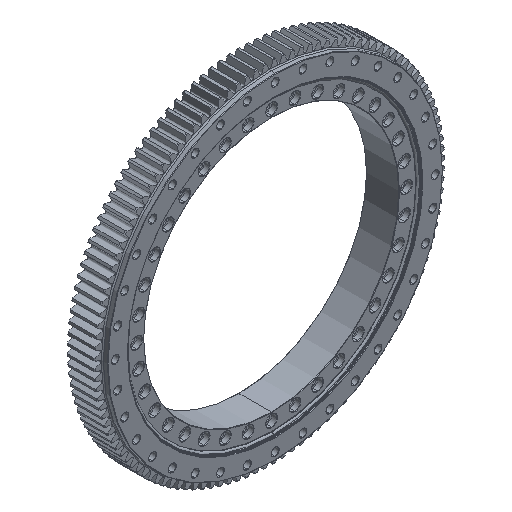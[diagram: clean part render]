
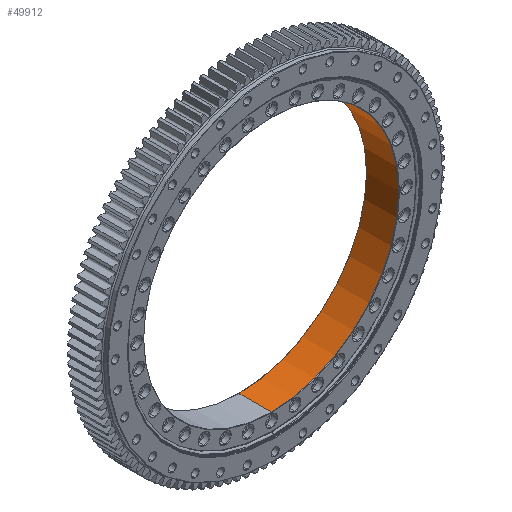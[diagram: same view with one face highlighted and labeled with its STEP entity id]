
A CAD part, isometric view. The second image highlights one B-rep face of the part: STEP entity #49912.
In plain terms, the highlighted cylindrical face has radius 356 mm (diameter 712 mm), a partial arc.
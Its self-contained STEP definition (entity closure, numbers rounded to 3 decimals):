
#1713 = ORIENTED_EDGE ( 'NONE', *, *, #24954, .F. ) ;
#3034 = AXIS2_PLACEMENT_3D ( 'NONE', #44207, #50062, #10198 ) ;
#4033 = AXIS2_PLACEMENT_3D ( 'NONE', #44699, #32661, #16551 ) ;
#5241 = CARTESIAN_POINT ( 'NONE',  ( 0., 0., -356. ) ) ;
#5570 = DIRECTION ( 'NONE',  ( 0., 0., -1. ) ) ;
#8978 = VERTEX_POINT ( 'NONE', #38751 ) ;
#10198 = DIRECTION ( 'NONE',  ( 0., 0., -1. ) ) ;
#10968 = EDGE_CURVE ( 'NONE', #69689, #71865, #65620, .T. ) ;
#11074 = FACE_OUTER_BOUND ( 'NONE', #13433, .T. ) ;
#11193 = ORIENTED_EDGE ( 'NONE', *, *, #45662, .F. ) ;
#13433 = EDGE_LOOP ( 'NONE', ( #11193, #1713, #60535, #38948 ) ) ;
#16083 = CARTESIAN_POINT ( 'NONE',  ( 0., 101., -356. ) ) ;
#16551 = DIRECTION ( 'NONE',  ( 0., 0., -1. ) ) ;
#21000 = DIRECTION ( 'NONE',  ( 0., -1., 0. ) ) ;
#23486 = CARTESIAN_POINT ( 'NONE',  ( 0., 11., 356. ) ) ;
#24954 = EDGE_CURVE ( 'NONE', #69689, #8978, #65934, .T. ) ;
#25748 = VECTOR ( 'NONE', #28880, 1000. ) ;
#28880 = DIRECTION ( 'NONE',  ( 0., -1., 0. ) ) ;
#32379 = VECTOR ( 'NONE', #21000, 1000. ) ;
#32661 = DIRECTION ( 'NONE',  ( 0., -1., 0. ) ) ;
#32677 = CYLINDRICAL_SURFACE ( 'NONE', #33001, 356. ) ;
#33001 = AXIS2_PLACEMENT_3D ( 'NONE', #44716, #38170, #5570 ) ;
#38170 = DIRECTION ( 'NONE',  ( 0., -1., 0. ) ) ;
#38751 = CARTESIAN_POINT ( 'NONE',  ( 0., 101., 356. ) ) ;
#38782 = LINE ( 'NONE', #57046, #25748 ) ;
#38948 = ORIENTED_EDGE ( 'NONE', *, *, #63176, .T. ) ;
#44207 = CARTESIAN_POINT ( 'NONE',  ( 0., 11., 0. ) ) ;
#44699 = CARTESIAN_POINT ( 'NONE',  ( 0., 101., 0. ) ) ;
#44716 = CARTESIAN_POINT ( 'NONE',  ( 0., 0., 0. ) ) ;
#45662 = EDGE_CURVE ( 'NONE', #8978, #50163, #38782, .T. ) ;
#49912 = ADVANCED_FACE ( 'NONE', ( #11074 ), #32677, .F. ) ;
#50062 = DIRECTION ( 'NONE',  ( 0., -1., 0. ) ) ;
#50163 = VERTEX_POINT ( 'NONE', #23486 ) ;
#57046 = CARTESIAN_POINT ( 'NONE',  ( 0., 0., 356. ) ) ;
#59154 = CIRCLE ( 'NONE', #3034, 356. ) ;
#60535 = ORIENTED_EDGE ( 'NONE', *, *, #10968, .T. ) ;
#63176 = EDGE_CURVE ( 'NONE', #71865, #50163, #59154, .T. ) ;
#65620 = LINE ( 'NONE', #5241, #32379 ) ;
#65934 = CIRCLE ( 'NONE', #4033, 356. ) ;
#68712 = CARTESIAN_POINT ( 'NONE',  ( 0., 11., -356. ) ) ;
#69689 = VERTEX_POINT ( 'NONE', #16083 ) ;
#71865 = VERTEX_POINT ( 'NONE', #68712 ) ;
